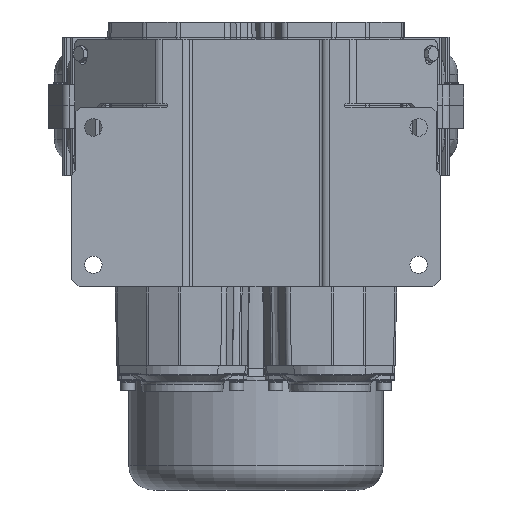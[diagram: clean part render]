
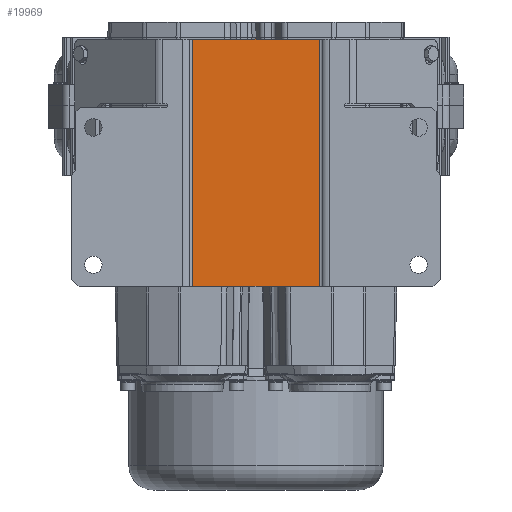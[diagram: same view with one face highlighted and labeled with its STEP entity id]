
A CAD part, front view. The second image highlights one B-rep face of the part: STEP entity #19969.
In plain terms, the highlighted planar face has unit normal (0, -1, 0).
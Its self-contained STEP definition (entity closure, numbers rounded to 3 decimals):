
#348 = EDGE_CURVE ( 'NONE', #48775, #85433, #43752, .T. ) ;
#1188 = DIRECTION ( 'NONE',  ( 1., 0., 0. ) ) ;
#9067 = DIRECTION ( 'NONE',  ( 0., 0., 1. ) ) ;
#9561 = CARTESIAN_POINT ( 'NONE',  ( -43.757, -169.242, -68.1 ) ) ;
#12183 = EDGE_LOOP ( 'NONE', ( #91160, #52539, #83949, #80556 ) ) ;
#14536 = VECTOR ( 'NONE', #78692, 1000. ) ;
#15295 = CARTESIAN_POINT ( 'NONE',  ( -45., -169.242, -68.1 ) ) ;
#18030 = DIRECTION ( 'NONE',  ( 0., 0., -1. ) ) ;
#18925 = CARTESIAN_POINT ( 'NONE',  ( 43.757, -169.242, 102.9 ) ) ;
#19969 = ADVANCED_FACE ( 'NONE', ( #69113 ), #87325, .T. ) ;
#20331 = CARTESIAN_POINT ( 'NONE',  ( -43.757, -169.242, 102.9 ) ) ;
#22381 = CARTESIAN_POINT ( 'NONE',  ( 43.757, -169.242, -68.1 ) ) ;
#28775 = CARTESIAN_POINT ( 'NONE',  ( -45., -169.242, 102.9 ) ) ;
#35866 = LINE ( 'NONE', #28775, #103656 ) ;
#41153 = LINE ( 'NONE', #22381, #79258 ) ;
#41546 = CARTESIAN_POINT ( 'NONE',  ( -45., -169.242, -68.1 ) ) ;
#43679 = VECTOR ( 'NONE', #9067, 1000. ) ;
#43752 = LINE ( 'NONE', #97671, #43679 ) ;
#48775 = VERTEX_POINT ( 'NONE', #9561 ) ;
#50538 = LINE ( 'NONE', #15295, #14536 ) ;
#51545 = EDGE_CURVE ( 'NONE', #85433, #68082, #35866, .T. ) ;
#52539 = ORIENTED_EDGE ( 'NONE', *, *, #348, .F. ) ;
#53273 = DIRECTION ( 'NONE',  ( 0., -1., 0. ) ) ;
#54230 = VERTEX_POINT ( 'NONE', #69967 ) ;
#58178 = DIRECTION ( 'NONE',  ( 0., 0., 1. ) ) ;
#68082 = VERTEX_POINT ( 'NONE', #18925 ) ;
#69113 = FACE_OUTER_BOUND ( 'NONE', #12183, .T. ) ;
#69390 = EDGE_CURVE ( 'NONE', #48775, #54230, #50538, .T. ) ;
#69967 = CARTESIAN_POINT ( 'NONE',  ( 43.757, -169.242, -68.1 ) ) ;
#78692 = DIRECTION ( 'NONE',  ( 1., 0., 0. ) ) ;
#79258 = VECTOR ( 'NONE', #58178, 1000. ) ;
#80556 = ORIENTED_EDGE ( 'NONE', *, *, #115089, .T. ) ;
#83949 = ORIENTED_EDGE ( 'NONE', *, *, #69390, .T. ) ;
#85433 = VERTEX_POINT ( 'NONE', #20331 ) ;
#87325 = PLANE ( 'NONE',  #111155 ) ;
#91160 = ORIENTED_EDGE ( 'NONE', *, *, #51545, .F. ) ;
#97671 = CARTESIAN_POINT ( 'NONE',  ( -43.757, -169.242, -68.1 ) ) ;
#103656 = VECTOR ( 'NONE', #1188, 1000. ) ;
#111155 = AXIS2_PLACEMENT_3D ( 'NONE', #41546, #53273, #18030 ) ;
#115089 = EDGE_CURVE ( 'NONE', #54230, #68082, #41153, .T. ) ;
